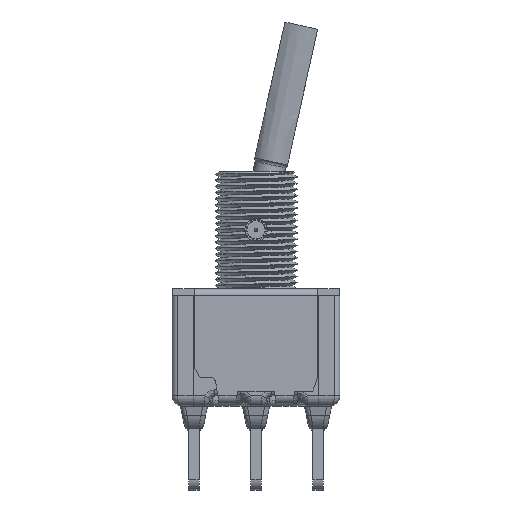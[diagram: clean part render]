
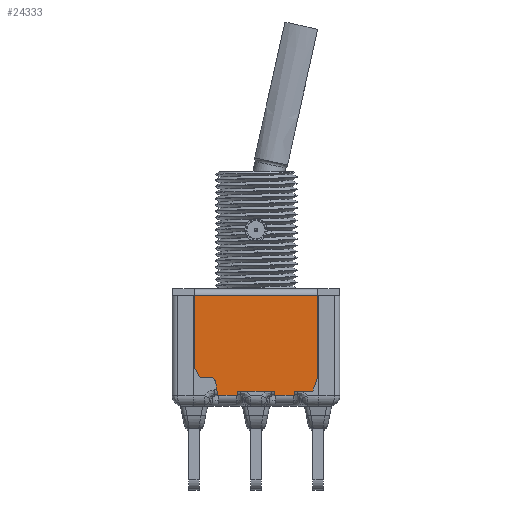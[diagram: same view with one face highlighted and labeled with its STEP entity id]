
A CAD part, top view. The second image highlights one B-rep face of the part: STEP entity #24333.
In plain terms, the highlighted planar face has unit normal (0, 0, 1).
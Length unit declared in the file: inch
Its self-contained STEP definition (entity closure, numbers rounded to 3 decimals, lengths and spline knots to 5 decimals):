
#2492=DIRECTION('',(1.,0.,0.));
#2493=VECTOR('',#2492,0.05719);
#2494=CARTESIAN_POINT('',(-0.1136,-0.298,0.133));
#2495=LINE('',#2494,#2493);
#2496=DIRECTION('',(0.174,-0.985,0.));
#2497=VECTOR('',#2496,0.04123);
#2498=CARTESIAN_POINT('',(-0.12076,-0.2574,0.133));
#2499=LINE('',#2498,#2497);
#2500=CARTESIAN_POINT('',(-0.13553,-0.26,0.133));
#2501=DIRECTION('',(0.,0.,-1.));
#2502=DIRECTION('',(0.,1.,0.));
#2503=AXIS2_PLACEMENT_3D('',#2500,#2501,#2502);
#2505=DIRECTION('',(1.,0.,0.));
#2506=VECTOR('',#2505,0.03115);
#2507=CARTESIAN_POINT('',(-0.16668,-0.245,0.133));
#2508=LINE('',#2507,#2506);
#2509=DIRECTION('',(0.5,-0.866,0.));
#2510=VECTOR('',#2509,0.03464);
#2511=CARTESIAN_POINT('',(-0.184,-0.215,0.133));
#2512=LINE('',#2511,#2510);
#2513=DIRECTION('',(0.,-1.,0.));
#2514=VECTOR('',#2513,0.215);
#2515=CARTESIAN_POINT('',(-0.184,0.,0.133));
#2516=LINE('',#2515,#2514);
#2517=DIRECTION('',(-1.,0.,0.));
#2518=VECTOR('',#2517,0.368);
#2519=CARTESIAN_POINT('',(0.184,0.,0.133));
#2520=LINE('',#2519,#2518);
#2521=DIRECTION('',(0.,-1.,0.));
#2522=VECTOR('',#2521,0.245);
#2523=CARTESIAN_POINT('',(0.184,0.,0.133));
#2524=LINE('',#2523,#2522);
#2525=DIRECTION('',(0.342,0.94,0.));
#2526=VECTOR('',#2525,0.04257);
#2527=CARTESIAN_POINT('',(0.16944,-0.285,0.133));
#2528=LINE('',#2527,#2526);
#2529=DIRECTION('',(1.,0.,0.));
#2530=VECTOR('',#2529,0.05355);
#2531=CARTESIAN_POINT('',(0.11589,-0.285,0.133));
#2532=LINE('',#2531,#2530);
#2533=DIRECTION('',(0.174,0.985,0.));
#2534=VECTOR('',#2533,0.0132);
#2535=CARTESIAN_POINT('',(0.1136,-0.298,0.133));
#2536=LINE('',#2535,#2534);
#2537=DIRECTION('',(1.,0.,0.));
#2538=VECTOR('',#2537,0.05719);
#2539=CARTESIAN_POINT('',(0.0564,-0.298,0.133));
#2540=LINE('',#2539,#2538);
#2541=DIRECTION('',(0.174,-0.985,0.));
#2542=VECTOR('',#2541,0.0132);
#2543=CARTESIAN_POINT('',(0.05411,-0.285,0.133));
#2544=LINE('',#2543,#2542);
#2545=DIRECTION('',(1.,0.,0.));
#2546=VECTOR('',#2545,0.10822);
#2547=CARTESIAN_POINT('',(-0.05411,-0.285,0.133));
#2548=LINE('',#2547,#2546);
#2549=DIRECTION('',(0.174,0.985,0.));
#2550=VECTOR('',#2549,0.0132);
#2551=CARTESIAN_POINT('',(-0.0564,-0.298,0.133));
#2552=LINE('',#2551,#2550);
#19222=CARTESIAN_POINT('',(-0.184,-0.215,0.133));
#19223=CARTESIAN_POINT('',(-0.16668,-0.245,0.133));
#19224=VERTEX_POINT('',#19222);
#19225=VERTEX_POINT('',#19223);
#19226=CARTESIAN_POINT('',(-0.13553,-0.245,0.133));
#19227=VERTEX_POINT('',#19226);
#19228=CARTESIAN_POINT('',(-0.12076,-0.2574,0.133));
#19229=VERTEX_POINT('',#19228);
#19234=CARTESIAN_POINT('',(-0.05411,-0.285,0.133));
#19235=CARTESIAN_POINT('',(0.05411,-0.285,0.133));
#19236=VERTEX_POINT('',#19234);
#19237=VERTEX_POINT('',#19235);
#19242=CARTESIAN_POINT('',(0.11589,-0.285,0.133));
#19243=CARTESIAN_POINT('',(0.16944,-0.285,0.133));
#19244=VERTEX_POINT('',#19242);
#19245=VERTEX_POINT('',#19243);
#19246=CARTESIAN_POINT('',(0.184,-0.245,0.133));
#19247=VERTEX_POINT('',#19246);
#19366=CARTESIAN_POINT('',(-0.184,0.,0.133));
#19367=VERTEX_POINT('',#19366);
#19368=CARTESIAN_POINT('',(0.184,0.,0.133));
#19369=VERTEX_POINT('',#19368);
#19406=CARTESIAN_POINT('',(-0.1136,-0.298,0.133));
#19407=VERTEX_POINT('',#19406);
#19408=CARTESIAN_POINT('',(-0.0564,-0.298,0.133));
#19409=VERTEX_POINT('',#19408);
#19410=CARTESIAN_POINT('',(0.0564,-0.298,0.133));
#19411=VERTEX_POINT('',#19410);
#19412=CARTESIAN_POINT('',(0.1136,-0.298,0.133));
#19413=VERTEX_POINT('',#19412);
#24297=CARTESIAN_POINT('',(0.2485,0.02,0.133));
#24298=DIRECTION('',(0.,0.,1.));
#24299=DIRECTION('',(0.,-1.,0.));
#24300=AXIS2_PLACEMENT_3D('',#24297,#24298,#24299);
#24301=PLANE('',#24300);
#24303=ORIENTED_EDGE('',*,*,#24302,.F.);
#24305=ORIENTED_EDGE('',*,*,#24304,.F.);
#24307=ORIENTED_EDGE('',*,*,#24306,.F.);
#24309=ORIENTED_EDGE('',*,*,#24308,.F.);
#24311=ORIENTED_EDGE('',*,*,#24310,.F.);
#24313=ORIENTED_EDGE('',*,*,#24312,.F.);
#24315=ORIENTED_EDGE('',*,*,#24314,.F.);
#24316=ORIENTED_EDGE('',*,*,#24282,.T.);
#24318=ORIENTED_EDGE('',*,*,#24317,.F.);
#24320=ORIENTED_EDGE('',*,*,#24319,.F.);
#24322=ORIENTED_EDGE('',*,*,#24321,.F.);
#24324=ORIENTED_EDGE('',*,*,#24323,.F.);
#24326=ORIENTED_EDGE('',*,*,#24325,.F.);
#24328=ORIENTED_EDGE('',*,*,#24327,.F.);
#24330=ORIENTED_EDGE('',*,*,#24329,.F.);
#24331=EDGE_LOOP('',(#24303,#24305,#24307,#24309,#24311,#24313,#24315,#24316,
#24318,#24320,#24322,#24324,#24326,#24328,#24330));
#24332=FACE_OUTER_BOUND('',#24331,.F.);
#24333=ADVANCED_FACE('',(#24332),#24301,.T.);
#2504=CIRCLE('',#2503,0.015);
#24282=EDGE_CURVE('',#19369,#19247,#2524,.T.);
#24302=EDGE_CURVE('',#19407,#19409,#2495,.T.);
#24304=EDGE_CURVE('',#19229,#19407,#2499,.T.);
#24306=EDGE_CURVE('',#19227,#19229,#2504,.T.);
#24308=EDGE_CURVE('',#19225,#19227,#2508,.T.);
#24310=EDGE_CURVE('',#19224,#19225,#2512,.T.);
#24312=EDGE_CURVE('',#19367,#19224,#2516,.T.);
#24314=EDGE_CURVE('',#19369,#19367,#2520,.T.);
#24317=EDGE_CURVE('',#19245,#19247,#2528,.T.);
#24319=EDGE_CURVE('',#19244,#19245,#2532,.T.);
#24321=EDGE_CURVE('',#19413,#19244,#2536,.T.);
#24323=EDGE_CURVE('',#19411,#19413,#2540,.T.);
#24325=EDGE_CURVE('',#19237,#19411,#2544,.T.);
#24327=EDGE_CURVE('',#19236,#19237,#2548,.T.);
#24329=EDGE_CURVE('',#19409,#19236,#2552,.T.);
